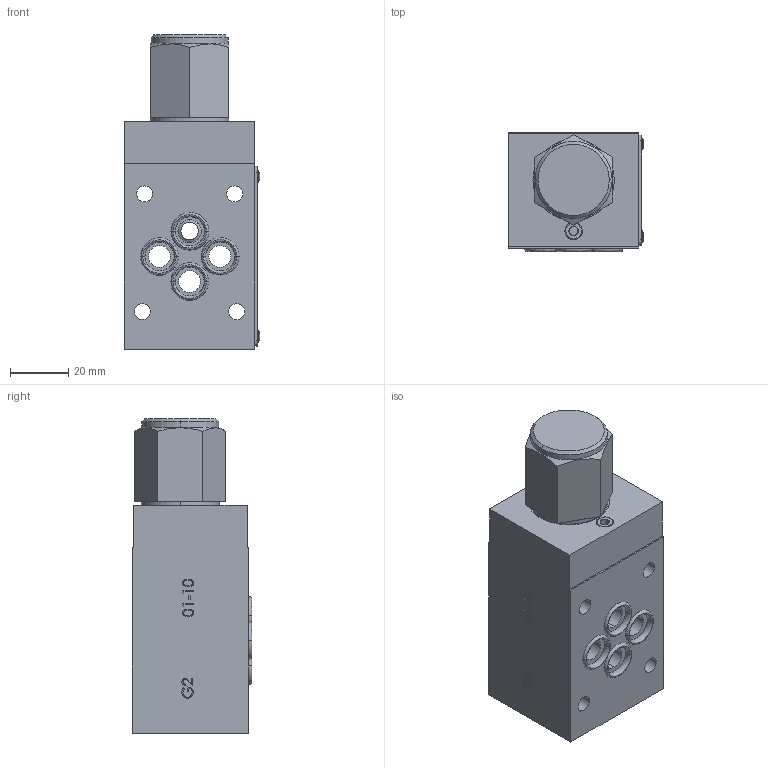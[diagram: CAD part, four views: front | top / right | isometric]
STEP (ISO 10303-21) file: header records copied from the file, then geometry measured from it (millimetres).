
FILE_DESCRIPTION (( 'STEP AP214' ), '1' );
FILE_NAME ('369-2-A-03.STEP', '2019-12-03T10:55:09', ( '' ), ( '' ), 'SwSTEP 2.0', 'SolidWorks 2018', '' );
FILE_SCHEMA (( 'AUTOMOTIVE_DESIGN' ));
Length unit declared in the file: millimetre
Products named in the file (1): 369-2-A-03
Bounding box: 46.66 x 41.1 x 108.3 mm (x, y, z)
Surface area: 29417.6 mm2 (no closed solid volume)
Topology: 0 solids, 21 shells, 784 faces, 3459 edges, 2577 vertices
Faces by surface type: plane 446, bspline 237, cylinder 75, cone 18, sphere 8
Entity records: 61838 total; most frequent: CARTESIAN_POINT 28178, ORIENTED_EDGE 4946, DIRECTION 3921, EDGE_CURVE 3459, VERTEX_POINT 2577, VECTOR 2337, LINE 2337, EDGE_LOOP 982
